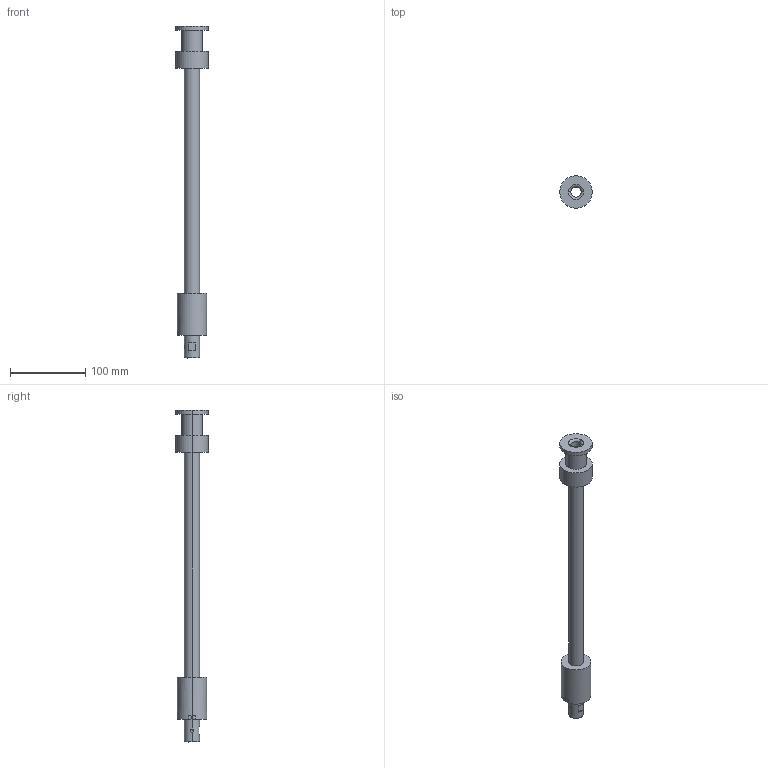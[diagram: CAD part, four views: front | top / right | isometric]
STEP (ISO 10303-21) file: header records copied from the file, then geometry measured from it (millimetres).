
FILE_DESCRIPTION (( 'STEP AP214' ), '1' );
FILE_NAME ('Link4_C550_IP54CR.step', '2019-10-23T07:38:44', ( '' ), ( '' ), 'SwSTEP 2.0', 'SolidWorks 2018', '' );
FILE_SCHEMA (( 'AUTOMOTIVE_DESIGN' ));
Length unit declared in the file: millimetre
Products named in the file (1): Link4_C550_IP54CR
Bounding box: 43 x 43 x 441.5 mm (x, y, z)
Volume: 159336.1 mm3; surface area: 59206.8 mm2
Topology: 1 solids, 1 shells, 36 faces, 91 edges, 60 vertices
Faces by surface type: cylinder 14, plane 12, cone 8, torus 2
Entity records: 1241 total; most frequent: CARTESIAN_POINT 346, DIRECTION 181, ORIENTED_EDGE 174, EDGE_CURVE 87, AXIS2_PLACEMENT_3D 75, VERTEX_POINT 60, EDGE_LOOP 45, CIRCLE 38
